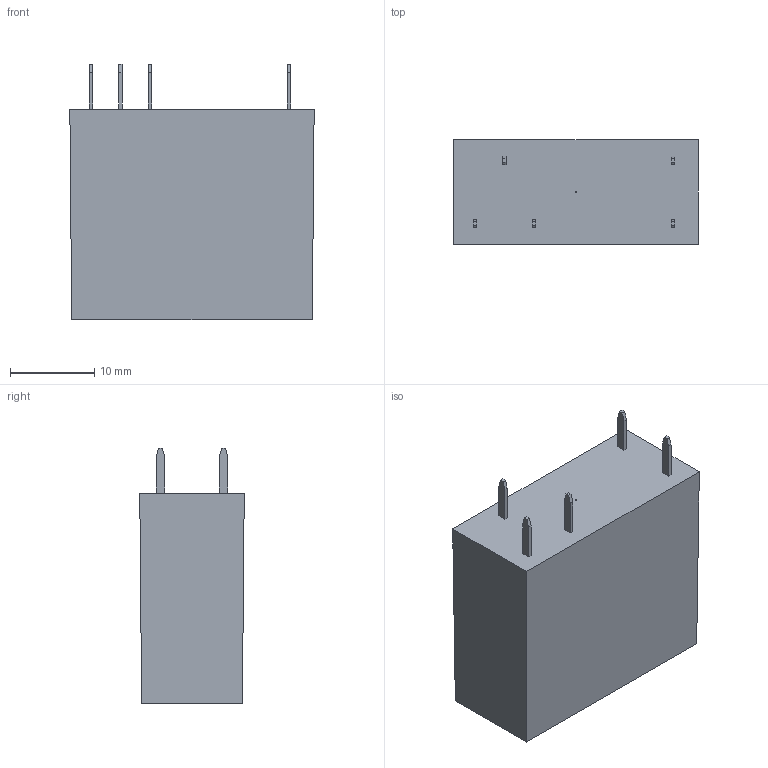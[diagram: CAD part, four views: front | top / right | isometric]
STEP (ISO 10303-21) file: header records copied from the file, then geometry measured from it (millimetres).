
FILE_DESCRIPTION(('STEP AP214'),'2;1');
FILE_NAME('C-4031-skin.stp','2009-11-13T13:58:18',(''),(''),'2007.1.106','THINKDESIGN','');
FILE_SCHEMA(('AUTOMOTIVE_DESIGN'));
Length unit declared in the file: millimetre
Products named in the file (1): None
Bounding box: 29 x 12.4 x 30.3 mm (x, y, z)
Surface area: 2824 mm2 (no closed solid volume)
Topology: 0 solids, 0 shells, 46 faces, 218 edges, 216 vertices
Faces by surface type: plane 34, bspline 11, cylinder 1
Full cylindrical faces by diameter (mm): 1.8 x1
Entity records: 2402 total; most frequent: CARTESIAN_POINT 783, DIRECTION 242, COMPOSITE_CURVE_SEGMENT 218, VECTOR 168, LINE 168, TRIMMED_CURVE 168, OUTER_BOUNDARY_CURVE 46, CURVE_BOUNDED_SURFACE 46
